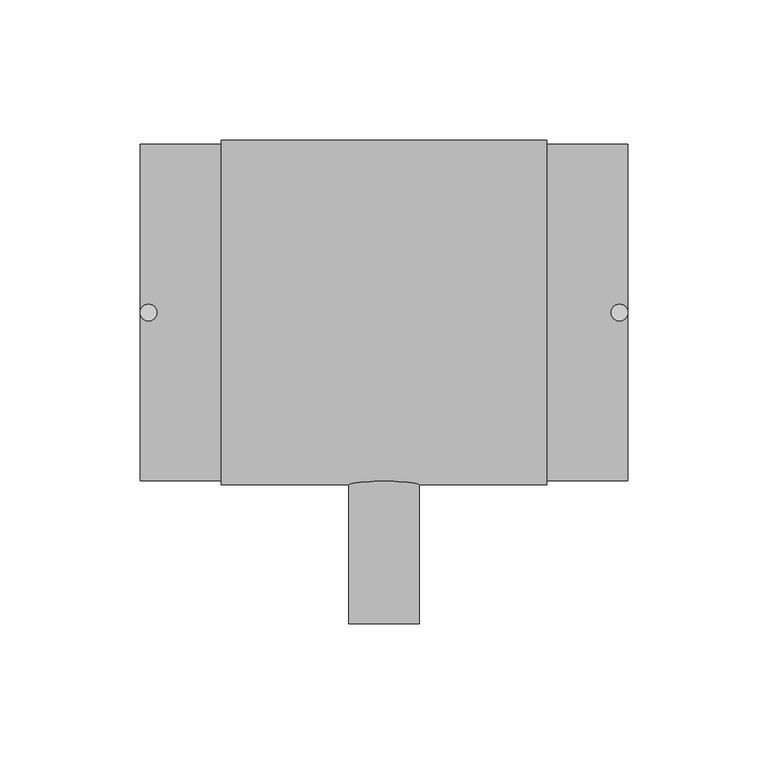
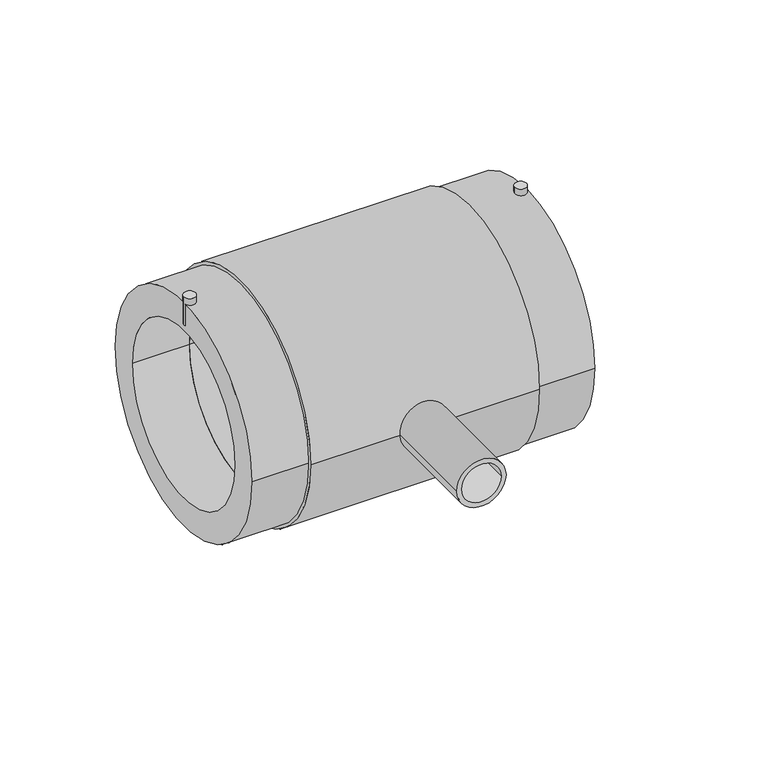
"""IFC4 building model written with IfcOpenShell, lengths in millimetres: pipe fitting geometry, EGB_VASEN_ PPR_Te electrosoldable WXRD300_Te reducida electrosoldable WXRD310 : Te electrosoldable."""

from ifc_helpers import new_model, si_unit, point, frame, frame_2d, origin, origin_2d, place, context, project, spatial, circle_curve, trimmed, segment, composite_curve, outline, extrude, source, transform, mapped, element, save


def pipe_fitting_7fd7a0ec(model_context):
    return source(origin(), model_context, "Body", "SweptSolid", [
        extrude(outline(composite_curve([segment(trimmed(circle_curve(frame_2d((-84.0, 0.0)), 3.0), [point((-87.0, 0.0))], [point((-81.0, 0.0))], False, "CARTESIAN"), True, "CONTINUOUS"), segment(trimmed(circle_curve(frame_2d((-84.0, 0.0)), 3.0), [point((-81.0, 0.0))], [point((-87.0, 0.0))], False, "CARTESIAN"), True, "CONTINUOUS")], self_intersect=False)), frame((0.0, 0.0, 48.0), z_axis=(0.0, 0.0, 1.0), x_axis=(1.0, 0.0, 0.0)), (0.0, 0.0, 1.0), 15.0),
        extrude(outline(composite_curve([segment(trimmed(circle_curve(frame_2d((84.0, 0.0)), 3.0), [point((81.0, 0.0))], [point((87.0, 0.0))], False, "CARTESIAN"), True, "CONTINUOUS"), segment(trimmed(circle_curve(frame_2d((84.0, 0.0)), 3.0), [point((87.0, 0.0))], [point((81.0, 0.0))], False, "CARTESIAN"), True, "CONTINUOUS")], self_intersect=False)), frame((0.0, 0.0, 48.0), z_axis=(0.0, 0.0, 1.0), x_axis=(1.0, 0.0, 0.0)), (0.0, 0.0, 1.0), 15.0),
        extrude(outline(composite_curve([segment(trimmed(circle_curve(origin_2d(), 15.0), [point((0.0, 15.0))], [point((0.0, -15.0))], False, "CARTESIAN"), True, "CONTINUOUS"), segment(trimmed(circle_curve(origin_2d(), 15.0), [point((0.0, -15.0))], [point((0.0, 15.0))], False, "CARTESIAN"), True, "CONTINUOUS")], self_intersect=False)), frame((0.0, -44.4, 0.0), z_axis=(0.0, 1.0, 0.0), x_axis=(0.0, 0.0, 1.0)), (0.0, 0.0, 1.0), 44.4),
        extrude(outline(composite_curve([segment(trimmed(circle_curve(origin_2d(), 12.5), [point((0.0, -12.5))], [point((0.0, 12.5))], False, "CARTESIAN"), True, "CONTINUOUS"), segment(trimmed(circle_curve(origin_2d(), 12.5), [point((0.0, 12.5))], [point((0.0, -12.5))], False, "CARTESIAN"), True, "CONTINUOUS")], self_intersect=False), holes=[composite_curve([segment(trimmed(circle_curve(origin_2d(), 10.0), [point((0.0, -10.0))], [point((0.0, 10.0))], True, "CARTESIAN"), True, "CONTINUOUS"), segment(trimmed(circle_curve(origin_2d(), 10.0), [point((0.0, 10.0))], [point((0.0, -10.0))], True, "CARTESIAN"), True, "CONTINUOUS")], self_intersect=False)]), frame((0.0, -111.0, 0.0), z_axis=(0.0, 1.0, 0.0), x_axis=(0.0, 0.0, 1.0)), (0.0, 0.0, 1.0), 66.6),
        extrude(outline(composite_curve([segment(trimmed(circle_curve(origin_2d(), 61.5), [point((-61.5, 0.0))], [point((61.5, 0.0))], False, "CARTESIAN"), True, "CONTINUOUS"), segment(trimmed(circle_curve(origin_2d(), 61.5), [point((61.5, 0.0))], [point((-61.5, 0.0))], False, "CARTESIAN"), True, "CONTINUOUS")], self_intersect=False), holes=[composite_curve([segment(trimmed(circle_curve(origin_2d(), 45.0), [point((-45.0, 0.0))], [point((45.0, 0.0))], True, "CARTESIAN"), True, "CONTINUOUS"), segment(trimmed(circle_curve(origin_2d(), 45.0), [point((45.0, 0.0))], [point((-45.0, 0.0))], True, "CARTESIAN"), True, "CONTINUOUS")], self_intersect=False)]), frame((-58.0, 0.0, 0.0), z_axis=(1.0, 0.0, 0.0), x_axis=(0.0, 1.0, 0.0)), (0.0, 0.0, 1.0), 116.0),
        extrude(outline(composite_curve([segment(trimmed(circle_curve(origin_2d(), 60.0), [point((-60.0, 0.0))], [point((60.0, 0.0))], False, "CARTESIAN"), True, "CONTINUOUS"), segment(trimmed(circle_curve(origin_2d(), 60.0), [point((60.0, 0.0))], [point((-60.0, 0.0))], False, "CARTESIAN"), True, "CONTINUOUS")], self_intersect=False), holes=[composite_curve([segment(trimmed(circle_curve(origin_2d(), 45.0), [point((-45.0, 0.0))], [point((45.0, 0.0))], True, "CARTESIAN"), True, "CONTINUOUS"), segment(trimmed(circle_curve(origin_2d(), 45.0), [point((45.0, 0.0))], [point((-45.0, 0.0))], True, "CARTESIAN"), True, "CONTINUOUS")], self_intersect=False)]), frame((-87.0, 0.0, 0.0), z_axis=(1.0, 0.0, 0.0), x_axis=(0.0, 1.0, 0.0)), (0.0, 0.0, 1.0), 174.0),
    ])


if __name__ == "__main__":
    model = new_model("IFC4")
    model_context = context("Model", 3, world=origin())
    ifc_project = project(units=[si_unit("LENGTHUNIT", "METRE", prefix="MILLI")], contexts=[model_context])
    site = spatial("IfcSite", under=ifc_project)
    building = spatial("IfcBuilding", under=site)
    placement = place(None, origin())
    pipe_fitting_shape = pipe_fitting_7fd7a0ec(model_context)
    element("IfcPipeFitting", 1, ObjectType="EGB_VASEN_ PPR_Te electrosoldable WXRD300_Te reducida electrosoldable WXRD310 : Te electrosoldable", at=placement, inside=building, context=model_context, shape_type="MappedRepresentation", body=[
        mapped(pipe_fitting_shape, transform((0.0, 0.0, 0.0), x_axis=(1.0, 0.0, 0.0), y_axis=(0.0, 1.0, 0.0), z_axis=(0.0, 0.0, 1.0))),
    ])
    save(model, "model.ifc")
